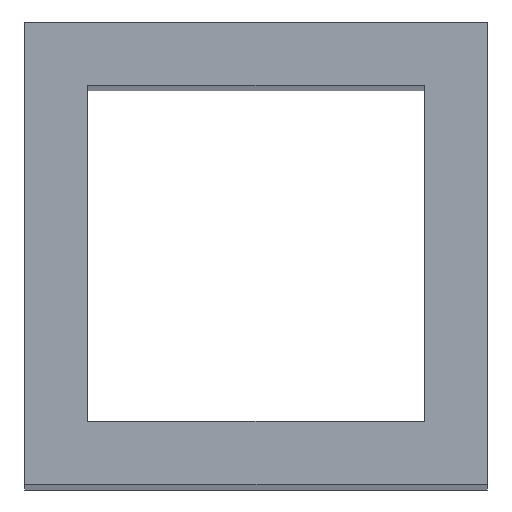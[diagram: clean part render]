
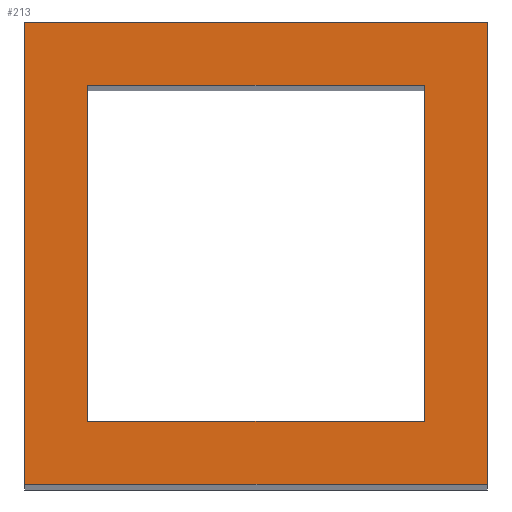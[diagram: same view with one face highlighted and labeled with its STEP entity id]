
A CAD part, top view. The second image highlights one B-rep face of the part: STEP entity #213.
In plain terms, the highlighted planar face has unit normal (0, 0, 1).
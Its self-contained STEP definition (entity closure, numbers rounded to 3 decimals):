
#24 = VERTEX_POINT('',#25);
#25 = CARTESIAN_POINT('',(-211.,-231.,160.));
#32 = PLANE('',#33);
#33 = AXIS2_PLACEMENT_3D('',#34,#35,#36);
#34 = CARTESIAN_POINT('',(-211.,-231.,4.));
#35 = DIRECTION('',(1.,0.,-0.));
#36 = DIRECTION('',(0.,0.,1.));
#44 = PLANE('',#45);
#45 = AXIS2_PLACEMENT_3D('',#46,#47,#48);
#46 = CARTESIAN_POINT('',(-211.,-231.,4.));
#47 = DIRECTION('',(-0.,1.,0.));
#48 = DIRECTION('',(0.,0.,1.));
#85 = VERTEX_POINT('',#86);
#86 = CARTESIAN_POINT('',(-211.,-209.,160.));
#100 = PLANE('',#101);
#101 = AXIS2_PLACEMENT_3D('',#102,#103,#104);
#102 = CARTESIAN_POINT('',(-211.,-209.,4.));
#103 = DIRECTION('',(-0.,1.,0.));
#104 = DIRECTION('',(0.,0.,1.));
#112 = EDGE_CURVE('',#24,#85,#113,.T.);
#113 = SURFACE_CURVE('',#114,(#118,#125),.PCURVE_S1.);
#114 = LINE('',#115,#116);
#115 = CARTESIAN_POINT('',(-211.,-231.,160.));
#116 = VECTOR('',#117,1.);
#117 = DIRECTION('',(-0.,1.,0.));
#118 = PCURVE('',#32,#119);
#119 = DEFINITIONAL_REPRESENTATION('',(#120),#124);
#120 = LINE('',#121,#122);
#121 = CARTESIAN_POINT('',(156.,0.));
#122 = VECTOR('',#123,1.);
#123 = DIRECTION('',(0.,-1.));
#124 = ( GEOMETRIC_REPRESENTATION_CONTEXT(2) 
PARAMETRIC_REPRESENTATION_CONTEXT() REPRESENTATION_CONTEXT('2D SPACE',''
  ) );
#125 = PCURVE('',#126,#131);
#126 = PLANE('',#127);
#127 = AXIS2_PLACEMENT_3D('',#128,#129,#130);
#128 = CARTESIAN_POINT('',(-211.,-231.,160.));
#129 = DIRECTION('',(0.,0.,1.));
#130 = DIRECTION('',(1.,0.,-0.));
#131 = DEFINITIONAL_REPRESENTATION('',(#132),#136);
#132 = LINE('',#133,#134);
#133 = CARTESIAN_POINT('',(0.,0.));
#134 = VECTOR('',#135,1.);
#135 = DIRECTION('',(0.,1.));
#136 = ( GEOMETRIC_REPRESENTATION_CONTEXT(2) 
PARAMETRIC_REPRESENTATION_CONTEXT() REPRESENTATION_CONTEXT('2D SPACE',''
  ) );
#165 = EDGE_CURVE('',#24,#166,#168,.T.);
#166 = VERTEX_POINT('',#167);
#167 = CARTESIAN_POINT('',(-189.,-231.,160.));
#168 = SURFACE_CURVE('',#169,(#173,#180),.PCURVE_S1.);
#169 = LINE('',#170,#171);
#170 = CARTESIAN_POINT('',(-211.,-231.,160.));
#171 = VECTOR('',#172,1.);
#172 = DIRECTION('',(1.,0.,-0.));
#173 = PCURVE('',#44,#174);
#174 = DEFINITIONAL_REPRESENTATION('',(#175),#179);
#175 = LINE('',#176,#177);
#176 = CARTESIAN_POINT('',(156.,0.));
#177 = VECTOR('',#178,1.);
#178 = DIRECTION('',(0.,1.));
#179 = ( GEOMETRIC_REPRESENTATION_CONTEXT(2) 
PARAMETRIC_REPRESENTATION_CONTEXT() REPRESENTATION_CONTEXT('2D SPACE',''
  ) );
#180 = PCURVE('',#126,#181);
#181 = DEFINITIONAL_REPRESENTATION('',(#182),#186);
#182 = LINE('',#183,#184);
#183 = CARTESIAN_POINT('',(0.,0.));
#184 = VECTOR('',#185,1.);
#185 = DIRECTION('',(1.,0.));
#186 = ( GEOMETRIC_REPRESENTATION_CONTEXT(2) 
PARAMETRIC_REPRESENTATION_CONTEXT() REPRESENTATION_CONTEXT('2D SPACE',''
  ) );
#202 = PLANE('',#203);
#203 = AXIS2_PLACEMENT_3D('',#204,#205,#206);
#204 = CARTESIAN_POINT('',(-189.,-231.,4.));
#205 = DIRECTION('',(1.,0.,-0.));
#206 = DIRECTION('',(0.,0.,1.));
#213 = ADVANCED_FACE('',(#214,#262),#126,.T.);
#214 = FACE_BOUND('',#215,.T.);
#215 = EDGE_LOOP('',(#216,#217,#218,#241));
#216 = ORIENTED_EDGE('',*,*,#112,.F.);
#217 = ORIENTED_EDGE('',*,*,#165,.T.);
#218 = ORIENTED_EDGE('',*,*,#219,.T.);
#219 = EDGE_CURVE('',#166,#220,#222,.T.);
#220 = VERTEX_POINT('',#221);
#221 = CARTESIAN_POINT('',(-189.,-209.,160.));
#222 = SURFACE_CURVE('',#223,(#227,#234),.PCURVE_S1.);
#223 = LINE('',#224,#225);
#224 = CARTESIAN_POINT('',(-189.,-231.,160.));
#225 = VECTOR('',#226,1.);
#226 = DIRECTION('',(-0.,1.,0.));
#227 = PCURVE('',#126,#228);
#228 = DEFINITIONAL_REPRESENTATION('',(#229),#233);
#229 = LINE('',#230,#231);
#230 = CARTESIAN_POINT('',(22.,0.));
#231 = VECTOR('',#232,1.);
#232 = DIRECTION('',(0.,1.));
#233 = ( GEOMETRIC_REPRESENTATION_CONTEXT(2) 
PARAMETRIC_REPRESENTATION_CONTEXT() REPRESENTATION_CONTEXT('2D SPACE',''
  ) );
#234 = PCURVE('',#202,#235);
#235 = DEFINITIONAL_REPRESENTATION('',(#236),#240);
#236 = LINE('',#237,#238);
#237 = CARTESIAN_POINT('',(156.,0.));
#238 = VECTOR('',#239,1.);
#239 = DIRECTION('',(0.,-1.));
#240 = ( GEOMETRIC_REPRESENTATION_CONTEXT(2) 
PARAMETRIC_REPRESENTATION_CONTEXT() REPRESENTATION_CONTEXT('2D SPACE',''
  ) );
#241 = ORIENTED_EDGE('',*,*,#242,.F.);
#242 = EDGE_CURVE('',#85,#220,#243,.T.);
#243 = SURFACE_CURVE('',#244,(#248,#255),.PCURVE_S1.);
#244 = LINE('',#245,#246);
#245 = CARTESIAN_POINT('',(-211.,-209.,160.));
#246 = VECTOR('',#247,1.);
#247 = DIRECTION('',(1.,0.,-0.));
#248 = PCURVE('',#126,#249);
#249 = DEFINITIONAL_REPRESENTATION('',(#250),#254);
#250 = LINE('',#251,#252);
#251 = CARTESIAN_POINT('',(0.,22.));
#252 = VECTOR('',#253,1.);
#253 = DIRECTION('',(1.,0.));
#254 = ( GEOMETRIC_REPRESENTATION_CONTEXT(2) 
PARAMETRIC_REPRESENTATION_CONTEXT() REPRESENTATION_CONTEXT('2D SPACE',''
  ) );
#255 = PCURVE('',#100,#256);
#256 = DEFINITIONAL_REPRESENTATION('',(#257),#261);
#257 = LINE('',#258,#259);
#258 = CARTESIAN_POINT('',(156.,0.));
#259 = VECTOR('',#260,1.);
#260 = DIRECTION('',(0.,1.));
#261 = ( GEOMETRIC_REPRESENTATION_CONTEXT(2) 
PARAMETRIC_REPRESENTATION_CONTEXT() REPRESENTATION_CONTEXT('2D SPACE',''
  ) );
#262 = FACE_BOUND('',#263,.T.);
#263 = EDGE_LOOP('',(#264,#292,#318,#344));
#264 = ORIENTED_EDGE('',*,*,#265,.T.);
#265 = EDGE_CURVE('',#266,#268,#270,.T.);
#266 = VERTEX_POINT('',#267);
#267 = CARTESIAN_POINT('',(-192.,-228.,160.));
#268 = VERTEX_POINT('',#269);
#269 = CARTESIAN_POINT('',(-208.,-228.,160.));
#270 = SURFACE_CURVE('',#271,(#275,#281),.PCURVE_S1.);
#271 = LINE('',#272,#273);
#272 = CARTESIAN_POINT('',(-209.5,-228.,160.));
#273 = VECTOR('',#274,1.);
#274 = DIRECTION('',(-1.,-0.,0.));
#275 = PCURVE('',#126,#276);
#276 = DEFINITIONAL_REPRESENTATION('',(#277),#280);
#277 = B_SPLINE_CURVE_WITH_KNOTS('',1,(#278,#279),.UNSPECIFIED.,.F.,.F.,
  (2,2),(-17.5,-1.5),.PIECEWISE_BEZIER_KNOTS.);
#278 = CARTESIAN_POINT('',(19.,3.));
#279 = CARTESIAN_POINT('',(3.,3.));
#280 = ( GEOMETRIC_REPRESENTATION_CONTEXT(2) 
PARAMETRIC_REPRESENTATION_CONTEXT() REPRESENTATION_CONTEXT('2D SPACE',''
  ) );
#281 = PCURVE('',#282,#287);
#282 = PLANE('',#283);
#283 = AXIS2_PLACEMENT_3D('',#284,#285,#286);
#284 = CARTESIAN_POINT('',(-208.,-228.,3.));
#285 = DIRECTION('',(-0.,1.,0.));
#286 = DIRECTION('',(0.,0.,1.));
#287 = DEFINITIONAL_REPRESENTATION('',(#288),#291);
#288 = B_SPLINE_CURVE_WITH_KNOTS('',1,(#289,#290),.UNSPECIFIED.,.F.,.F.,
  (2,2),(-17.5,-1.5),.PIECEWISE_BEZIER_KNOTS.);
#289 = CARTESIAN_POINT('',(157.,16.));
#290 = CARTESIAN_POINT('',(157.,0.));
#291 = ( GEOMETRIC_REPRESENTATION_CONTEXT(2) 
PARAMETRIC_REPRESENTATION_CONTEXT() REPRESENTATION_CONTEXT('2D SPACE',''
  ) );
#292 = ORIENTED_EDGE('',*,*,#293,.T.);
#293 = EDGE_CURVE('',#268,#294,#296,.T.);
#294 = VERTEX_POINT('',#295);
#295 = CARTESIAN_POINT('',(-208.,-212.,160.));
#296 = SURFACE_CURVE('',#297,(#301,#307),.PCURVE_S1.);
#297 = LINE('',#298,#299);
#298 = CARTESIAN_POINT('',(-208.,-229.5,160.));
#299 = VECTOR('',#300,1.);
#300 = DIRECTION('',(-0.,1.,0.));
#301 = PCURVE('',#126,#302);
#302 = DEFINITIONAL_REPRESENTATION('',(#303),#306);
#303 = B_SPLINE_CURVE_WITH_KNOTS('',1,(#304,#305),.UNSPECIFIED.,.F.,.F.,
  (2,2),(1.5,17.5),.PIECEWISE_BEZIER_KNOTS.);
#304 = CARTESIAN_POINT('',(3.,3.));
#305 = CARTESIAN_POINT('',(3.,19.));
#306 = ( GEOMETRIC_REPRESENTATION_CONTEXT(2) 
PARAMETRIC_REPRESENTATION_CONTEXT() REPRESENTATION_CONTEXT('2D SPACE',''
  ) );
#307 = PCURVE('',#308,#313);
#308 = PLANE('',#309);
#309 = AXIS2_PLACEMENT_3D('',#310,#311,#312);
#310 = CARTESIAN_POINT('',(-208.,-228.,3.));
#311 = DIRECTION('',(1.,0.,-0.));
#312 = DIRECTION('',(0.,0.,1.));
#313 = DEFINITIONAL_REPRESENTATION('',(#314),#317);
#314 = B_SPLINE_CURVE_WITH_KNOTS('',1,(#315,#316),.UNSPECIFIED.,.F.,.F.,
  (2,2),(1.5,17.5),.PIECEWISE_BEZIER_KNOTS.);
#315 = CARTESIAN_POINT('',(157.,0.));
#316 = CARTESIAN_POINT('',(157.,-16.));
#317 = ( GEOMETRIC_REPRESENTATION_CONTEXT(2) 
PARAMETRIC_REPRESENTATION_CONTEXT() REPRESENTATION_CONTEXT('2D SPACE',''
  ) );
#318 = ORIENTED_EDGE('',*,*,#319,.F.);
#319 = EDGE_CURVE('',#320,#294,#322,.T.);
#320 = VERTEX_POINT('',#321);
#321 = CARTESIAN_POINT('',(-192.,-212.,160.));
#322 = SURFACE_CURVE('',#323,(#327,#333),.PCURVE_S1.);
#323 = LINE('',#324,#325);
#324 = CARTESIAN_POINT('',(-209.5,-212.,160.));
#325 = VECTOR('',#326,1.);
#326 = DIRECTION('',(-1.,-0.,0.));
#327 = PCURVE('',#126,#328);
#328 = DEFINITIONAL_REPRESENTATION('',(#329),#332);
#329 = B_SPLINE_CURVE_WITH_KNOTS('',1,(#330,#331),.UNSPECIFIED.,.F.,.F.,
  (2,2),(-17.5,-1.5),.PIECEWISE_BEZIER_KNOTS.);
#330 = CARTESIAN_POINT('',(19.,19.));
#331 = CARTESIAN_POINT('',(3.,19.));
#332 = ( GEOMETRIC_REPRESENTATION_CONTEXT(2) 
PARAMETRIC_REPRESENTATION_CONTEXT() REPRESENTATION_CONTEXT('2D SPACE',''
  ) );
#333 = PCURVE('',#334,#339);
#334 = PLANE('',#335);
#335 = AXIS2_PLACEMENT_3D('',#336,#337,#338);
#336 = CARTESIAN_POINT('',(-208.,-212.,3.));
#337 = DIRECTION('',(-0.,1.,0.));
#338 = DIRECTION('',(0.,0.,1.));
#339 = DEFINITIONAL_REPRESENTATION('',(#340),#343);
#340 = B_SPLINE_CURVE_WITH_KNOTS('',1,(#341,#342),.UNSPECIFIED.,.F.,.F.,
  (2,2),(-17.5,-1.5),.PIECEWISE_BEZIER_KNOTS.);
#341 = CARTESIAN_POINT('',(157.,16.));
#342 = CARTESIAN_POINT('',(157.,0.));
#343 = ( GEOMETRIC_REPRESENTATION_CONTEXT(2) 
PARAMETRIC_REPRESENTATION_CONTEXT() REPRESENTATION_CONTEXT('2D SPACE',''
  ) );
#344 = ORIENTED_EDGE('',*,*,#345,.F.);
#345 = EDGE_CURVE('',#266,#320,#346,.T.);
#346 = SURFACE_CURVE('',#347,(#351,#357),.PCURVE_S1.);
#347 = LINE('',#348,#349);
#348 = CARTESIAN_POINT('',(-192.,-229.5,160.));
#349 = VECTOR('',#350,1.);
#350 = DIRECTION('',(-0.,1.,0.));
#351 = PCURVE('',#126,#352);
#352 = DEFINITIONAL_REPRESENTATION('',(#353),#356);
#353 = B_SPLINE_CURVE_WITH_KNOTS('',1,(#354,#355),.UNSPECIFIED.,.F.,.F.,
  (2,2),(1.5,17.5),.PIECEWISE_BEZIER_KNOTS.);
#354 = CARTESIAN_POINT('',(19.,3.));
#355 = CARTESIAN_POINT('',(19.,19.));
#356 = ( GEOMETRIC_REPRESENTATION_CONTEXT(2) 
PARAMETRIC_REPRESENTATION_CONTEXT() REPRESENTATION_CONTEXT('2D SPACE',''
  ) );
#357 = PCURVE('',#358,#363);
#358 = PLANE('',#359);
#359 = AXIS2_PLACEMENT_3D('',#360,#361,#362);
#360 = CARTESIAN_POINT('',(-192.,-228.,3.));
#361 = DIRECTION('',(1.,0.,-0.));
#362 = DIRECTION('',(0.,0.,1.));
#363 = DEFINITIONAL_REPRESENTATION('',(#364),#367);
#364 = B_SPLINE_CURVE_WITH_KNOTS('',1,(#365,#366),.UNSPECIFIED.,.F.,.F.,
  (2,2),(1.5,17.5),.PIECEWISE_BEZIER_KNOTS.);
#365 = CARTESIAN_POINT('',(157.,0.));
#366 = CARTESIAN_POINT('',(157.,-16.));
#367 = ( GEOMETRIC_REPRESENTATION_CONTEXT(2) 
PARAMETRIC_REPRESENTATION_CONTEXT() REPRESENTATION_CONTEXT('2D SPACE',''
  ) );
